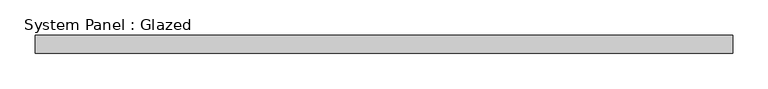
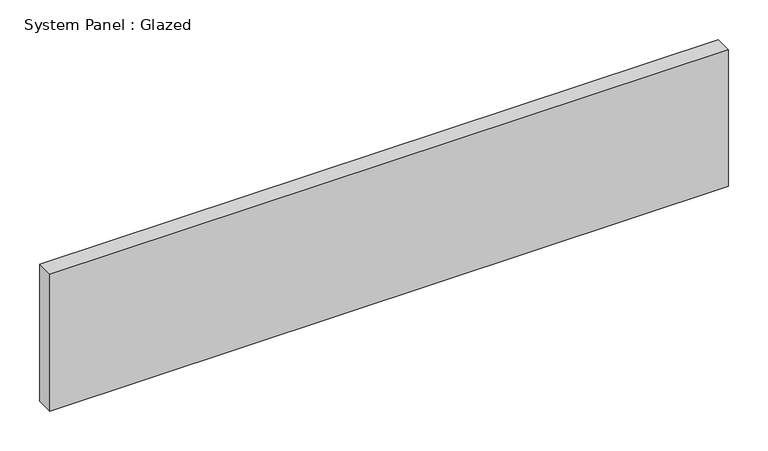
"""IFC4 building model written with IfcOpenShell, lengths in millimetres: plate geometry, System Panel : Glazed."""

from ifc_helpers import new_model, si_unit, origin, origin_with_axes, place, context, project, spatial, polyline, outline, extrude, source, transform, mapped, element, save


def system_panel_glazed_1281ff27(model_context):
    return source(origin(), model_context, "Body", "SweptSolid", [
        extrude(outline(polyline([(492.1249999, 19.05), (-492.1249999, 19.05), (-492.1249999, 44.45), (492.1249999, 44.45), (492.1249999, 19.05)])), origin_with_axes(), (0.0, 0.0, 1.0), 209.55),
    ])


if __name__ == "__main__":
    model = new_model("IFC4")
    model_context = context("Model", 3, world=origin())
    ifc_project = project(units=[si_unit("LENGTHUNIT", "METRE", prefix="MILLI")], contexts=[model_context])
    site = spatial("IfcSite", under=ifc_project)
    building = spatial("IfcBuilding", under=site)
    placement = place(None, origin())
    system_panel_glazed_shape = system_panel_glazed_1281ff27(model_context)
    element("IfcPlate", 1, ObjectType="System Panel : Glazed", at=placement, inside=building, context=model_context, shape_type="MappedRepresentation", body=[
        mapped(system_panel_glazed_shape, transform((0.0, 0.0, 0.0), x_axis=(1.0, 0.0, 0.0), y_axis=(0.0, 1.0, 0.0), z_axis=(0.0, 0.0, 1.0))),
    ])
    save(model, "model.ifc")
